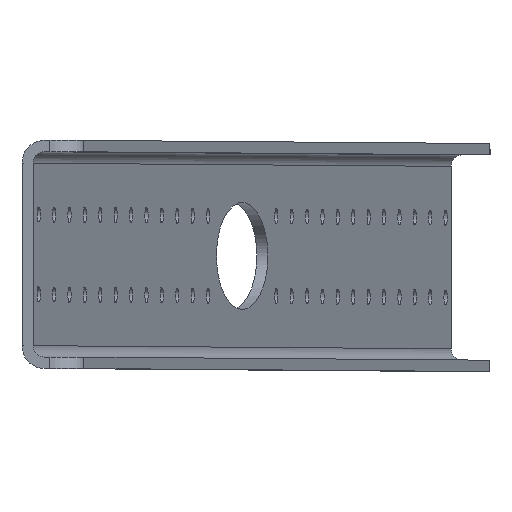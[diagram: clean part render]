
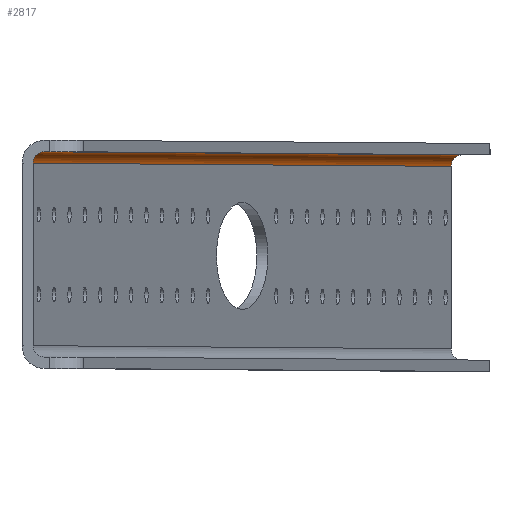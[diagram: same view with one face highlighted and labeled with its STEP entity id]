
A CAD part, top view. The second image highlights one B-rep face of the part: STEP entity #2817.
In plain terms, the highlighted cylindrical face has radius 10 mm (diameter 20 mm), a partial arc.
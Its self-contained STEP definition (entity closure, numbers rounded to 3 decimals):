
#132 = PLANE('',#133);
#133 = AXIS2_PLACEMENT_3D('',#134,#135,#136);
#134 = CARTESIAN_POINT('',(-731.681,3.009,
    880.415));
#135 = DIRECTION('',(-0.225,0.,0.974)
  );
#136 = DIRECTION('',(0.974,0.,0.225)
  );
#291 = PLANE('',#292);
#292 = AXIS2_PLACEMENT_3D('',#293,#294,#295);
#293 = CARTESIAN_POINT('',(-365.01,3.009,
    -707.808));
#294 = DIRECTION('',(0.225,0.,-0.974
    ));
#295 = DIRECTION('',(-0.974,0.,-0.225
    ));
#523 = VERTEX_POINT('',#524);
#524 = CARTESIAN_POINT('',(-345.523,93.009,
    -703.309));
#538 = PLANE('',#539);
#539 = AXIS2_PLACEMENT_3D('',#540,#541,#542);
#540 = CARTESIAN_POINT('',(-519.332,93.009,
    93.002));
#541 = DIRECTION('',(0.,1.,0.));
#542 = DIRECTION('',(0.974,0.,0.225)
  );
#550 = EDGE_CURVE('',#523,#551,#553,.T.);
#551 = VERTEX_POINT('',#552);
#552 = CARTESIAN_POINT('',(-355.267,83.009,-705.558
    ));
#553 = SURFACE_CURVE('',#554,(#559,#570),.PCURVE_S1.);
#554 = CIRCLE('',#555,10.);
#555 = AXIS2_PLACEMENT_3D('',#556,#557,#558);
#556 = CARTESIAN_POINT('',(-345.523,83.009,
    -703.309));
#557 = DIRECTION('',(-0.225,0.,0.974)
  );
#558 = DIRECTION('',(0.,1.,0.));
#559 = PCURVE('',#291,#560);
#560 = DEFINITIONAL_REPRESENTATION('',(#561),#569);
#561 = ( BOUNDED_CURVE() B_SPLINE_CURVE(2,(#562,#563,#564,#565,#566,#567
,#568),.UNSPECIFIED.,.T.,.F.) B_SPLINE_CURVE_WITH_KNOTS((1,2,2,2,2,1),(
    -2.094,0.,2.094,4.189,6.283,
8.378),.UNSPECIFIED.) CURVE() GEOMETRIC_REPRESENTATION_ITEM() 
RATIONAL_B_SPLINE_CURVE((1.,0.5,1.,0.5,1.,0.5,1.)) REPRESENTATION_ITEM(
  '') );
#562 = CARTESIAN_POINT('',(-20.,90.));
#563 = CARTESIAN_POINT('',(-2.679,90.));
#564 = CARTESIAN_POINT('',(-11.34,75.));
#565 = CARTESIAN_POINT('',(-20.,60.));
#566 = CARTESIAN_POINT('',(-28.66,75.));
#567 = CARTESIAN_POINT('',(-37.321,90.));
#568 = CARTESIAN_POINT('',(-20.,90.));
#569 = ( GEOMETRIC_REPRESENTATION_CONTEXT(2) 
PARAMETRIC_REPRESENTATION_CONTEXT() REPRESENTATION_CONTEXT('2D SPACE',''
  ) );
#570 = PCURVE('',#571,#576);
#571 = CYLINDRICAL_SURFACE('',#572,10.);
#572 = AXIS2_PLACEMENT_3D('',#573,#574,#575);
#573 = CARTESIAN_POINT('',(-712.193,83.009,
    884.914));
#574 = DIRECTION('',(0.225,0.,-0.974
    ));
#575 = DIRECTION('',(-0.974,0.,-0.225
    ));
#576 = DEFINITIONAL_REPRESENTATION('',(#577),#581);
#577 = LINE('',#578,#579);
#578 = CARTESIAN_POINT('',(1.571,1630.));
#579 = VECTOR('',#580,1.);
#580 = DIRECTION('',(-1.,0.));
#581 = ( GEOMETRIC_REPRESENTATION_CONTEXT(2) 
PARAMETRIC_REPRESENTATION_CONTEXT() REPRESENTATION_CONTEXT('2D SPACE',''
  ) );
#599 = PLANE('',#600);
#600 = AXIS2_PLACEMENT_3D('',#601,#602,#603);
#601 = CARTESIAN_POINT('',(-538.602,3.009,
    88.553));
#602 = DIRECTION('',(0.974,0.,0.225)
  );
#603 = DIRECTION('',(-0.225,0.,0.974)
  );
#2684 = VERTEX_POINT('',#2685);
#2685 = CARTESIAN_POINT('',(-721.937,83.009,
    882.665));
#2706 = EDGE_CURVE('',#2684,#2707,#2709,.T.);
#2707 = VERTEX_POINT('',#2708);
#2708 = CARTESIAN_POINT('',(-712.193,93.009,
    884.914));
#2709 = SURFACE_CURVE('',#2710,(#2715,#2726),.PCURVE_S1.);
#2710 = CIRCLE('',#2711,10.);
#2711 = AXIS2_PLACEMENT_3D('',#2712,#2713,#2714);
#2712 = CARTESIAN_POINT('',(-712.193,83.009,
    884.914));
#2713 = DIRECTION('',(0.225,0.,
    -0.974));
#2714 = DIRECTION('',(-0.974,0.,
    -0.225));
#2715 = PCURVE('',#132,#2716);
#2716 = DEFINITIONAL_REPRESENTATION('',(#2717),#2725);
#2717 = ( BOUNDED_CURVE() B_SPLINE_CURVE(2,(#2718,#2719,#2720,#2721,
#2722,#2723,#2724),.UNSPECIFIED.,.T.,.F.) B_SPLINE_CURVE_WITH_KNOTS((1,2
    ,2,2,2,1),(-2.094,0.,2.094,4.189,
6.283,8.378),.UNSPECIFIED.) CURVE() 
GEOMETRIC_REPRESENTATION_ITEM() RATIONAL_B_SPLINE_CURVE((1.,0.5,1.,0.5,
1.,0.5,1.)) REPRESENTATION_ITEM('') );
#2718 = CARTESIAN_POINT('',(10.,80.));
#2719 = CARTESIAN_POINT('',(10.,97.321));
#2720 = CARTESIAN_POINT('',(25.,88.66));
#2721 = CARTESIAN_POINT('',(40.,80.));
#2722 = CARTESIAN_POINT('',(25.,71.34));
#2723 = CARTESIAN_POINT('',(10.,62.679));
#2724 = CARTESIAN_POINT('',(10.,80.));
#2725 = ( GEOMETRIC_REPRESENTATION_CONTEXT(2) 
PARAMETRIC_REPRESENTATION_CONTEXT() REPRESENTATION_CONTEXT('2D SPACE',''
  ) );
#2726 = PCURVE('',#571,#2727);
#2727 = DEFINITIONAL_REPRESENTATION('',(#2728),#2732);
#2728 = LINE('',#2729,#2730);
#2729 = CARTESIAN_POINT('',(0.,0.));
#2730 = VECTOR('',#2731,1.);
#2731 = DIRECTION('',(1.,0.));
#2732 = ( GEOMETRIC_REPRESENTATION_CONTEXT(2) 
PARAMETRIC_REPRESENTATION_CONTEXT() REPRESENTATION_CONTEXT('2D SPACE',''
  ) );
#2787 = EDGE_CURVE('',#523,#2707,#2788,.T.);
#2788 = SURFACE_CURVE('',#2789,(#2793,#2800),.PCURVE_S1.);
#2789 = LINE('',#2790,#2791);
#2790 = CARTESIAN_POINT('',(-528.858,93.009,
    90.803));
#2791 = VECTOR('',#2792,1.);
#2792 = DIRECTION('',(-0.225,0.,0.974)
  );
#2793 = PCURVE('',#538,#2794);
#2794 = DEFINITIONAL_REPRESENTATION('',(#2795),#2799);
#2795 = LINE('',#2796,#2797);
#2796 = CARTESIAN_POINT('',(-9.777,0.));
#2797 = VECTOR('',#2798,1.);
#2798 = DIRECTION('',(0.,-1.));
#2799 = ( GEOMETRIC_REPRESENTATION_CONTEXT(2) 
PARAMETRIC_REPRESENTATION_CONTEXT() REPRESENTATION_CONTEXT('2D SPACE',''
  ) );
#2800 = PCURVE('',#571,#2801);
#2801 = DEFINITIONAL_REPRESENTATION('',(#2802),#2806);
#2802 = LINE('',#2803,#2804);
#2803 = CARTESIAN_POINT('',(1.571,815.));
#2804 = VECTOR('',#2805,1.);
#2805 = DIRECTION('',(0.,-1.));
#2806 = ( GEOMETRIC_REPRESENTATION_CONTEXT(2) 
PARAMETRIC_REPRESENTATION_CONTEXT() REPRESENTATION_CONTEXT('2D SPACE',''
  ) );
#2817 = ADVANCED_FACE('',(#2818),#571,.F.);
#2818 = FACE_BOUND('',#2819,.F.);
#2819 = EDGE_LOOP('',(#2820,#2821,#2822,#2823));
#2820 = ORIENTED_EDGE('',*,*,#2706,.T.);
#2821 = ORIENTED_EDGE('',*,*,#2787,.F.);
#2822 = ORIENTED_EDGE('',*,*,#550,.T.);
#2823 = ORIENTED_EDGE('',*,*,#2824,.F.);
#2824 = EDGE_CURVE('',#2684,#551,#2825,.T.);
#2825 = SURFACE_CURVE('',#2826,(#2830,#2837),.PCURVE_S1.);
#2826 = LINE('',#2827,#2828);
#2827 = CARTESIAN_POINT('',(-538.602,83.009,
    88.553));
#2828 = VECTOR('',#2829,1.);
#2829 = DIRECTION('',(0.225,0.,
    -0.974));
#2830 = PCURVE('',#571,#2831);
#2831 = DEFINITIONAL_REPRESENTATION('',(#2832),#2836);
#2832 = LINE('',#2833,#2834);
#2833 = CARTESIAN_POINT('',(0.,815.));
#2834 = VECTOR('',#2835,1.);
#2835 = DIRECTION('',(0.,1.));
#2836 = ( GEOMETRIC_REPRESENTATION_CONTEXT(2) 
PARAMETRIC_REPRESENTATION_CONTEXT() REPRESENTATION_CONTEXT('2D SPACE',''
  ) );
#2837 = PCURVE('',#599,#2838);
#2838 = DEFINITIONAL_REPRESENTATION('',(#2839),#2843);
#2839 = LINE('',#2840,#2841);
#2840 = CARTESIAN_POINT('',(0.,-80.));
#2841 = VECTOR('',#2842,1.);
#2842 = DIRECTION('',(-1.,0.));
#2843 = ( GEOMETRIC_REPRESENTATION_CONTEXT(2) 
PARAMETRIC_REPRESENTATION_CONTEXT() REPRESENTATION_CONTEXT('2D SPACE',''
  ) );
